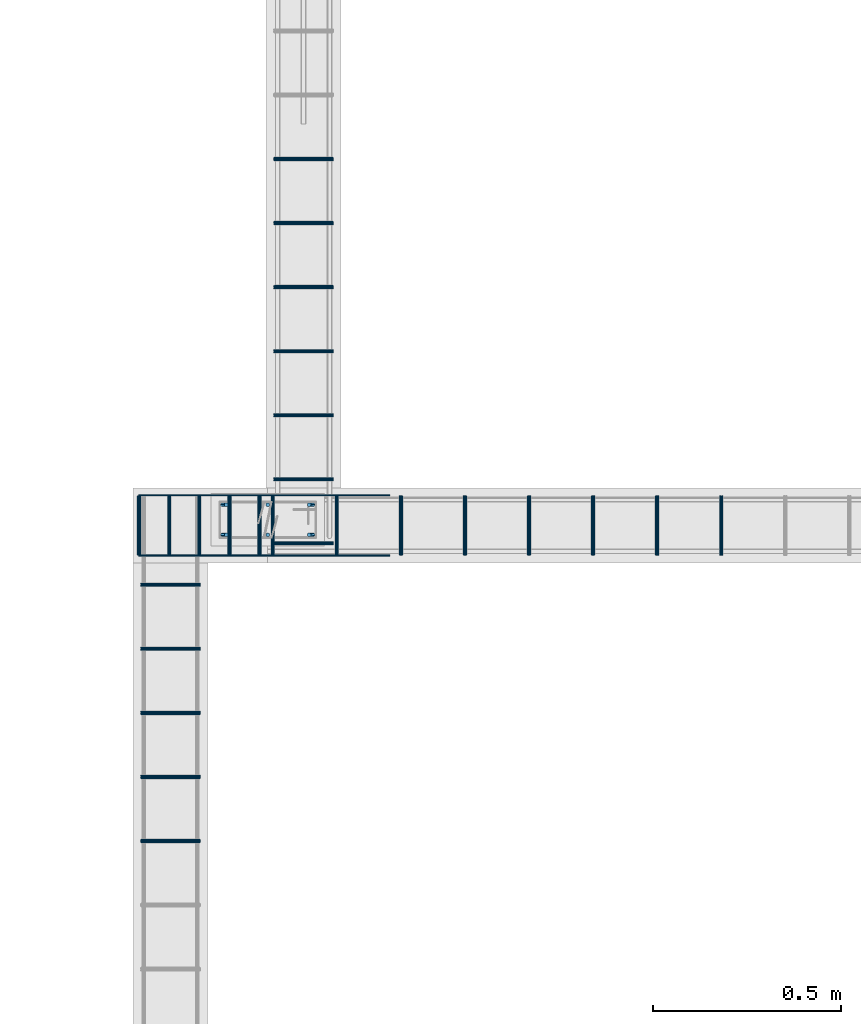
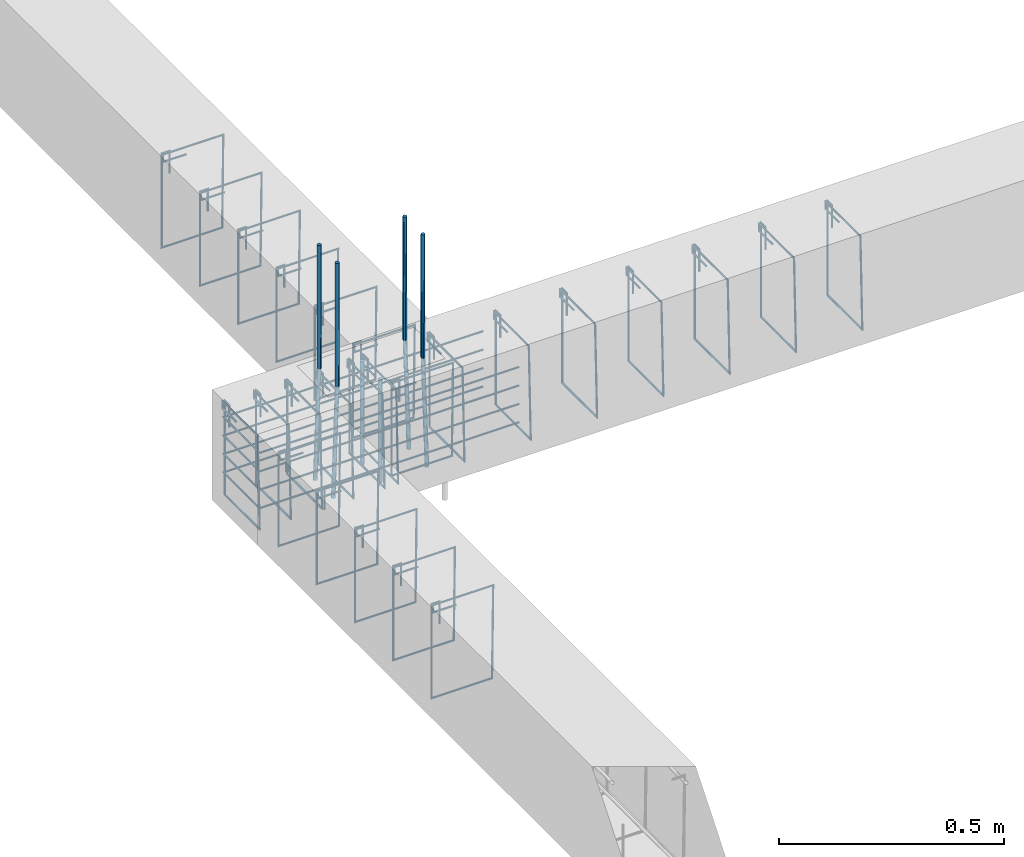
# One storey, part 29 of 150: 35 reinforcing bars.
"""IFC4 building model written with IfcOpenShell, lengths in centimetres."""

import ifcopenshell
import ifcopenshell.guid

model = None  # the IFC model being written
_history = None  # IfcOwnerHistory: only IFC2X3 demands one
_inside = {}  # id of a spatial element -> (the spatial element, [elements in it])
_under = {}  # id of a project, library or spatial element -> (it, [spatial elements below it])
_declared = {}  # id of a project -> (the project, [libraries it declares])
_typed = {}  # id of a type object -> (the type object, [elements of that type])
_made_of = {}  # id of a material, layer set ... -> (it, [elements and type objects made of it])


def new_model(schema):
    """Start an empty IFC model of exactly this schema.

    Asked for "IFC4X3", IfcOpenShell would pick the latest addendum, in which some entities
    have other attributes; the version numbers below select the first issue.
    IFC2X3 requires an IfcOwnerHistory on every rooted entity: one is made here for all.
    """
    global model, _history
    if schema == "IFC4X3":
        model = ifcopenshell.file(schema_version=(4, 3, 0, 0))
    else:
        model = ifcopenshell.file(schema=schema)
    _inside.clear()
    _under.clear()
    _declared.clear()
    _typed.clear()
    _made_of.clear()
    _history = None
    if model.schema == "IFC2X3":
        org = make("IfcOrganization", Name="unknown")
        user = make(
            "IfcPersonAndOrganization",
            ThePerson=make("IfcPerson", FamilyName="unknown"),
            TheOrganization=org,
        )
        app = make(
            "IfcApplication",
            ApplicationDeveloper=org,
            Version="unknown",
            ApplicationFullName="unknown",
            ApplicationIdentifier="unknown",
        )
        _history = make(
            "IfcOwnerHistory",
            OwningUser=user,
            OwningApplication=app,
            ChangeAction="ADDED",
            CreationDate=0,
        )
    return model


def make(cls, **values):
    """One entity of the class cls with the attributes given. An attribute that is None is left unset."""
    return model.create_entity(
        cls, **{name: value for name, value in values.items() if value is not None}
    )


def entity(cls, *values):
    """Any entity or typed value of the class cls, its attributes in the order of the schema. None: left unset."""
    e = model.create_entity(cls)
    for i, value in enumerate(values):
        if value is not None:
            e[i] = value
    return e


def rooted(cls, **values):
    """An entity with a GlobalId (a new one), such as an element, a storey or a relation."""
    return make(cls, GlobalId=ifcopenshell.guid.new(), OwnerHistory=_history, **values)


def si_unit(unit_type, name, prefix=None):
    """IfcSIUnit, for example si_unit("LENGTHUNIT", "METRE", prefix="MILLI")."""
    return make("IfcSIUnit", UnitType=unit_type, Prefix=prefix, Name=name)


def derived_unit(unit_type, elements):
    """IfcDerivedUnit: a product of units, each with its exponent."""
    return make(
        "IfcDerivedUnit",
        Elements=[
            make("IfcDerivedUnitElement", Unit=unit, Exponent=power)
            for unit, power in elements
        ],
        UnitType=unit_type,
    )


def assignment(units):
    """IfcUnitAssignment: the units of a project."""
    return None if units is None else make("IfcUnitAssignment", Units=units)


def point(xyz):
    """IfcCartesianPoint."""
    return None if xyz is None else make("IfcCartesianPoint", Coordinates=xyz)


def direction(xyz):
    """IfcDirection."""
    return None if xyz is None else make("IfcDirection", DirectionRatios=xyz)


def frame(location, z_axis=None, x_axis=None):
    """IfcAxis2Placement3D, a coordinate frame: its origin and axes. An axis left out is left unset."""
    return make(
        "IfcAxis2Placement3D",
        Location=point(location),
        Axis=direction(z_axis),
        RefDirection=direction(x_axis),
    )


def origin_with_axes():
    """The frame at (0, 0, 0) with the z axis (0, 0, 1) and the x axis (1, 0, 0) written out."""
    return frame((0.0, 0.0, 0.0), z_axis=(0.0, 0.0, 1.0), x_axis=(1.0, 0.0, 0.0))


def place(relative_to, where):
    """IfcLocalPlacement: puts the frame where relative to a parent placement (None: the world)."""
    return make(
        "IfcLocalPlacement", PlacementRelTo=relative_to, RelativePlacement=where
    )


def context(
    kind, dimensions, precision=None, world=None, true_north=None, identifier=None
):
    """IfcGeometricRepresentationContext, for example the 3D "Model" context."""
    return make(
        "IfcGeometricRepresentationContext",
        ContextIdentifier=identifier,
        ContextType=kind,
        CoordinateSpaceDimension=dimensions,
        Precision=precision,
        WorldCoordinateSystem=world,
        TrueNorth=true_north,
    )


def project(units=None, contexts=None):
    """IfcProject with its units and contexts."""
    return rooted(
        "IfcProject",
        Name="project",
        RepresentationContexts=contexts,
        UnitsInContext=assignment(units),
    )


def spatial(cls, under=None, at=None, **own):
    """A site, building, storey or space (cls), placed at a placement, below another one or the project."""
    s = rooted(cls, ObjectPlacement=at, **own)
    if under is not None:
        _under.setdefault(under.id(), (under, []))[1].append(s)
    return s


def shape(context_of_items, identifier, shape_type, items):
    """IfcShapeRepresentation: the items that make up one representation, for example the "Body"."""
    return make(
        "IfcShapeRepresentation",
        ContextOfItems=context_of_items,
        RepresentationIdentifier=identifier,
        RepresentationType=shape_type,
        Items=items,
    )


def source(mapping_origin, context_of_items, identifier, shape_type, items):
    """IfcRepresentationMap: a shape defined once, which mapped items show again and again."""
    return make(
        "IfcRepresentationMap",
        MappingOrigin=mapping_origin,
        MappedRepresentation=shape(context_of_items, identifier, shape_type, items),
    )


def transform(
    local_origin,
    x_axis=None,
    y_axis=None,
    z_axis=None,
    scale=None,
    scale2=None,
    scale3=None,
    uniform=True,
):
    """IfcCartesianTransformationOperator3D, or its non-uniform kind. x_axis, y_axis, z_axis: its Axis1, 2, 3."""
    if uniform:
        return make(
            "IfcCartesianTransformationOperator3D",
            Axis1=direction(x_axis),
            Axis2=direction(y_axis),
            LocalOrigin=point(local_origin),
            Scale=scale,
            Axis3=direction(z_axis),
        )
    return make(
        "IfcCartesianTransformationOperator3DnonUniform",
        Axis1=direction(x_axis),
        Axis2=direction(y_axis),
        LocalOrigin=point(local_origin),
        Scale=scale,
        Axis3=direction(z_axis),
        Scale2=scale2,
        Scale3=scale3,
    )


def mapped(mapping_source, mapping_target):
    """IfcMappedItem: shows the shape of a source again, moved by a transform."""
    return make(
        "IfcMappedItem", MappingSource=mapping_source, MappingTarget=mapping_target
    )


def made_of(thing, what):
    """Note that an element or type object is made of a material, layer set ...; save() writes the relation."""
    if what is not None:
        _made_of.setdefault(what.id(), (what, []))[1].append(thing)
    return thing


def element(
    cls,
    number,
    at=None,
    inside=None,
    cuts=None,
    type_object=None,
    material=None,
    context=None,
    identifier="Body",
    shape_type=None,
    held_by="IfcProductDefinitionShape",
    body=None,
    shapes=None,
    **own,
):
    """One element of the class cls, such as IfcWall. Its Tag is "e" and its number.

    at: its placement. inside: the storey or other place that contains it. cuts: it is an
    opening in that element (IfcRelVoidsElement). A single representation is given by context,
    identifier, shape_type and body (its items); several are given by shapes. held_by: the class
    of the entity that holds the representations. save() writes the other relations.
    """
    e = rooted(cls, Tag="e%d" % number, ObjectPlacement=at, **own)
    if body is not None:
        shapes = [shape(context, identifier, shape_type, body)]
    if shapes is not None:
        e.Representation = make(held_by, Representations=shapes)
    if inside is not None:
        _inside.setdefault(inside.id(), (inside, []))[1].append(e)
    if cuts is not None:
        rooted(
            "IfcRelVoidsElement", RelatingBuildingElement=cuts, RelatedOpeningElement=e
        )
    if type_object is not None:
        _typed.setdefault(type_object.id(), (type_object, []))[1].append(e)
    return made_of(e, material)


def aggregate(whole, parts):
    """IfcRelAggregates: a whole, such as a stair, and the parts it consists of."""
    return rooted("IfcRelAggregates", RelatingObject=whole, RelatedObjects=parts)


def save(model, path):
    """Write the relations noted so far, then the file.

    IfcRelAggregates (storeys below a building ...), IfcRelContainedInSpatialStructure (elements
    in a storey), IfcRelDefinesByType, IfcRelAssociatesMaterial and IfcRelDeclares: one each for
    every whole, place, type object, material and project.
    """
    for whole, parts in _under.values():
        aggregate(whole, parts)
    for where, things in _inside.values():
        rooted(
            "IfcRelContainedInSpatialStructure",
            RelatedElements=things,
            RelatingStructure=where,
        )
    for kind, things in _typed.values():
        rooted("IfcRelDefinesByType", RelatedObjects=things, RelatingType=kind)
    for what, things in _made_of.values():
        rooted("IfcRelAssociatesMaterial", RelatedObjects=things, RelatingMaterial=what)
    for by, libraries in _declared.values():
        rooted("IfcRelDeclares", RelatingContext=by, RelatedDefinitions=libraries)
    model.write(path)


model = new_model("IFC4")

# Units and contexts
model_context = context("Model", 3, precision=1e-05, world=origin_with_axes(), identifier="Body")
ifc_project = project(units=[si_unit("LENGTHUNIT", "METRE", prefix="CENTI"), si_unit("VOLUMEUNIT", "CUBIC_METRE"), si_unit("AREAUNIT", "SQUARE_METRE"), si_unit("POWERUNIT", "WATT"), si_unit("LUMINOUSFLUXUNIT", "LUMEN"), si_unit("ELECTRICCURRENTUNIT", "AMPERE"), si_unit("PRESSUREUNIT", "PASCAL", prefix="KILO"), si_unit("MASSUNIT", "GRAM", prefix="KILO"), si_unit("PLANEANGLEUNIT", "RADIAN"), derived_unit("VOLUMETRICFLOWRATEUNIT", [(si_unit("LENGTHUNIT", "METRE"), 3), (si_unit("TIMEUNIT", "SECOND"), -1)])], contexts=[model_context])

# Site, building, storey
site_placement = place(None, frame((-4000.0, 0.0, 0.0), z_axis=(0.0, 0.0, 1.0), x_axis=(1.0, 0.0, 0.0)))
site = spatial("IfcSite", under=ifc_project, at=site_placement, Name="PADRÃO")
building_placement = place(site_placement, frame((0.0, 0.0, -14.0)))
building = spatial("IfcBuilding", under=site, at=building_placement, Name="CRECHE PRÉ-ESCOLA TIPO 2")
placement = place(building_placement, origin_with_axes())
storey_placement = place(placement, frame((0.0, 0.0, 30.0), z_axis=(0.0, 0.0, 1.0), x_axis=(1.0, 0.0, 0.0)))
storey = spatial("IfcBuildingStorey", under=building, at=storey_placement, Name="VIGA BALDRAME", CompositionType="ELEMENT", Elevation=16.0)

# Reinforcing bars
shared_shape_1 = source(origin_with_axes(), model_context, "Body", "AdvancedSweptSolid", [
    entity("IfcSweptDiskSolid", entity("IfcCompositeCurve", [entity("IfcCompositeCurveSegment", "CONTINUOUS", True, entity("IfcPolyline", [entity("IfcCartesianPoint", [2.0, -6.0, 0.0]), entity("IfcCartesianPoint", [2.0, 0.0, 0.0])])), entity("IfcCompositeCurveSegment", "CONTINUOUS", True, entity("IfcPolyline", [entity("IfcCartesianPoint", [2.0, 0.0, 0.0]), entity("IfcCartesianPoint", [0.0, 0.0, 0.0])])), entity("IfcCompositeCurveSegment", "CONTINUOUS", True, entity("IfcPolyline", [entity("IfcCartesianPoint", [0.0, 0.0, 0.0]), entity("IfcCartesianPoint", [0.0, -25.5, 0.0])])), entity("IfcCompositeCurveSegment", "CONTINUOUS", True, entity("IfcPolyline", [entity("IfcCartesianPoint", [0.0, -25.5, 0.0]), entity("IfcCartesianPoint", [15.5, -25.5, 0.0])])), entity("IfcCompositeCurveSegment", "CONTINUOUS", True, entity("IfcPolyline", [entity("IfcCartesianPoint", [15.5, -25.5, 0.0]), entity("IfcCartesianPoint", [15.5, 0.0, 0.5])])), entity("IfcCompositeCurveSegment", "CONTINUOUS", True, entity("IfcPolyline", [entity("IfcCartesianPoint", [15.5, 0.0, 0.5]), entity("IfcCartesianPoint", [0.0, 0.0, 0.5])])), entity("IfcCompositeCurveSegment", "CONTINUOUS", True, entity("IfcPolyline", [entity("IfcCartesianPoint", [0.0, 0.0, 0.5]), entity("IfcCartesianPoint", [0.0, -2.0, 0.5])])), entity("IfcCompositeCurveSegment", "CONTINUOUS", True, entity("IfcPolyline", [entity("IfcCartesianPoint", [0.0, -2.0, 0.5]), entity("IfcCartesianPoint", [6.0, -2.0, 0.5])]))], False), 0.25),
])
for number, where, z_axis, x_axis, name in (
    (1, (235.595, 1307.75, -2.25), (-1.0, 0.0, 0.0), (0.0, -1.0, 0.0), "V136 - Estribo"),
    (2, (267.595, 1307.75, -2.25), (-1.0, 0.0, 0.0), (0.0, -1.0, 0.0), "V136 - Estribo"),
    (3, (259.595, 1307.75, -2.25), (-1.0, 0.0, 0.0), (0.0, -1.0, 0.0), "V136 - Estribo"),
    (4, (251.595, 1307.75, -2.25), (-1.0, 0.0, 0.0), (0.0, -1.0, 0.0), "V136 - Estribo"),
    (5, (243.595, 1307.75, -2.25), (-1.0, 0.0, 0.0), (0.0, -1.0, 0.0), "V136 - Estribo"),
):
    element("IfcReinforcingBar", number, at=place(storey_placement, frame(where, z_axis=z_axis, x_axis=x_axis)), inside=storey, Name=name, BarLength=0.0, CrossSectionArea=1.9634954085e-05, NominalDiameter=0.5, PredefinedType="MAIN", context=model_context, shape_type="MappedRepresentation", body=[
        mapped(shared_shape_1, transform((0.0, 0.0, 0.0), scale=1.0)),
    ])
shared_shape_2 = source(origin_with_axes(), model_context, "Body", "AdvancedSweptSolid", [
    entity("IfcSweptDiskSolid", entity("IfcCompositeCurve", [entity("IfcCompositeCurveSegment", "CONTINUOUS", True, entity("IfcPolyline", [entity("IfcCartesianPoint", [2.0, -6.0, 0.0]), entity("IfcCartesianPoint", [2.0, 0.0, 0.0])])), entity("IfcCompositeCurveSegment", "CONTINUOUS", True, entity("IfcPolyline", [entity("IfcCartesianPoint", [2.0, 0.0, 0.0]), entity("IfcCartesianPoint", [0.0, 0.0, 0.0])])), entity("IfcCompositeCurveSegment", "CONTINUOUS", True, entity("IfcPolyline", [entity("IfcCartesianPoint", [0.0, 0.0, 0.0]), entity("IfcCartesianPoint", [0.0, -25.5, 0.0])])), entity("IfcCompositeCurveSegment", "CONTINUOUS", True, entity("IfcPolyline", [entity("IfcCartesianPoint", [0.0, -25.5, 0.0]), entity("IfcCartesianPoint", [15.5, -25.5, 0.0])])), entity("IfcCompositeCurveSegment", "CONTINUOUS", True, entity("IfcPolyline", [entity("IfcCartesianPoint", [15.5, -25.5, 0.0]), entity("IfcCartesianPoint", [15.5, 0.0, 0.5])])), entity("IfcCompositeCurveSegment", "CONTINUOUS", True, entity("IfcPolyline", [entity("IfcCartesianPoint", [15.5, 0.0, 0.5]), entity("IfcCartesianPoint", [0.0, 0.0, 0.5])])), entity("IfcCompositeCurveSegment", "CONTINUOUS", True, entity("IfcPolyline", [entity("IfcCartesianPoint", [0.0, 0.0, 0.5]), entity("IfcCartesianPoint", [0.0, -2.0, 0.5])])), entity("IfcCompositeCurveSegment", "CONTINUOUS", True, entity("IfcPolyline", [entity("IfcCartesianPoint", [0.0, -2.0, 0.5]), entity("IfcCartesianPoint", [6.0, -2.0, 0.5])]))], False), 0.25),
])
for number, where, z_axis, x_axis, name in (
    (6, (390.095, 1307.75, -2.25), (-1.0, 0.0, 0.0), (0.0, -1.0, 0.0), "V136 - Estribo"),
    (7, (373.095, 1307.75, -2.25), (-1.0, 0.0, 0.0), (0.0, -1.0, 0.0), "V136 - Estribo"),
    (8, (356.095, 1307.75, -2.25), (-1.0, 0.0, 0.0), (0.0, -1.0, 0.0), "V136 - Estribo"),
    (9, (339.095, 1307.75, -2.25), (-1.0, 0.0, 0.0), (0.0, -1.0, 0.0), "V136 - Estribo"),
    (10, (322.095, 1307.75, -2.25), (-1.0, 0.0, 0.0), (0.0, -1.0, 0.0), "V136 - Estribo"),
    (11, (305.095, 1307.75, -2.25), (-1.0, 0.0, 0.0), (0.0, -1.0, 0.0), "V136 - Estribo"),
    (12, (288.095, 1307.75, -2.25), (-1.0, 0.0, 0.0), (0.0, -1.0, 0.0), "V136 - Estribo"),
    (13, (271.095, 1307.75, -2.25), (-1.0, 0.0, 0.0), (0.0, -1.0, 0.0), "V136 - Estribo"),
):
    element("IfcReinforcingBar", number, at=place(storey_placement, frame(where, z_axis=z_axis, x_axis=x_axis)), inside=storey, Name=name, BarLength=0.0, CrossSectionArea=1.9634954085e-05, NominalDiameter=0.5, PredefinedType="MAIN", context=model_context, shape_type="MappedRepresentation", body=[
        mapped(shared_shape_2, transform((0.0, 0.0, 0.0), scale=1.0)),
    ])
shared_shape_3 = source(origin_with_axes(), model_context, "Body", "AdvancedSweptSolid", [
    entity("IfcSweptDiskSolid", entity("IfcCompositeCurve", [entity("IfcCompositeCurveSegment", "CONTINUOUS", True, entity("IfcPolyline", [entity("IfcCartesianPoint", [0.0, 0.0, 0.0]), entity("IfcCartesianPoint", [-66.5113828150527, 0.0, 0.0])])), entity("IfcCompositeCurveSegment", "CONTINUOUS", True, entity("IfcPolyline", [entity("IfcCartesianPoint", [-66.5113828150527, 0.0, 0.0]), entity("IfcCartesianPoint", [-66.5113828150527, -16.0, 0.0])])), entity("IfcCompositeCurveSegment", "CONTINUOUS", True, entity("IfcPolyline", [entity("IfcCartesianPoint", [-66.5113828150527, -16.0, 0.0]), entity("IfcCartesianPoint", [0.0, -16.0, 0.0])]))], False), 0.25),
])
for number, where, z_axis, x_axis, name in (
    (14, (301.951382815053, 1308.0, -11.875), (0.0, 0.0, 1.0), (1.0, 0.0, 0.0), "V136 - Grampo"),
    (15, (301.951382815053, 1308.0, -16.875), (0.0, 0.0, 1.0), (1.0, 0.0, 0.0), "V136 - Grampo"),
    (16, (301.951382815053, 1308.0, -21.875), (0.0, 0.0, 1.0), (1.0, 0.0, 0.0), "V136 - Grampo"),
    (17, (301.951382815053, 1308.0, -6.875), (0.0, 0.0, 1.0), (1.0, 0.0, 0.0), "V136 - Grampo"),
):
    element("IfcReinforcingBar", number, at=place(storey_placement, frame(where, z_axis=z_axis, x_axis=x_axis)), inside=storey, Name=name, BarLength=0.0, CrossSectionArea=1.9634954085e-05, NominalDiameter=0.5, PredefinedType="MAIN", context=model_context, shape_type="MappedRepresentation", body=[
        mapped(shared_shape_3, transform((0.0, 0.0, 0.0), scale=1.0)),
    ])
shared_shape_4 = source(origin_with_axes(), model_context, "Body", "AdvancedSweptSolid", [
    entity("IfcSweptDiskSolid", entity("IfcCompositeCurve", [entity("IfcCompositeCurveSegment", "CONTINUOUS", True, entity("IfcPolyline", [entity("IfcCartesianPoint", [2.0, -6.0, 0.0]), entity("IfcCartesianPoint", [2.0, 0.0, 0.0])])), entity("IfcCompositeCurveSegment", "CONTINUOUS", True, entity("IfcPolyline", [entity("IfcCartesianPoint", [2.0, 0.0, 0.0]), entity("IfcCartesianPoint", [0.0, 0.0, 0.0])])), entity("IfcCompositeCurveSegment", "CONTINUOUS", True, entity("IfcPolyline", [entity("IfcCartesianPoint", [0.0, 0.0, 0.0]), entity("IfcCartesianPoint", [0.0, -25.5, 0.0])])), entity("IfcCompositeCurveSegment", "CONTINUOUS", True, entity("IfcPolyline", [entity("IfcCartesianPoint", [0.0, -25.5, 0.0]), entity("IfcCartesianPoint", [15.5, -25.5, 0.0])])), entity("IfcCompositeCurveSegment", "CONTINUOUS", True, entity("IfcPolyline", [entity("IfcCartesianPoint", [15.5, -25.5, 0.0]), entity("IfcCartesianPoint", [15.5, 0.0, 0.5])])), entity("IfcCompositeCurveSegment", "CONTINUOUS", True, entity("IfcPolyline", [entity("IfcCartesianPoint", [15.5, 0.0, 0.5]), entity("IfcCartesianPoint", [0.0, 0.0, 0.5])])), entity("IfcCompositeCurveSegment", "CONTINUOUS", True, entity("IfcPolyline", [entity("IfcCartesianPoint", [0.0, 0.0, 0.5]), entity("IfcCartesianPoint", [0.0, -2.0, 0.5])])), entity("IfcCompositeCurveSegment", "CONTINUOUS", True, entity("IfcPolyline", [entity("IfcCartesianPoint", [0.0, -2.0, 0.5]), entity("IfcCartesianPoint", [6.0, -2.0, 0.5])]))], False), 0.25),
])
for number, where, z_axis, x_axis, name in (
    (18, (235.94, 1216.5, -2.25), (0.0, -1.0, 0.0), (1.0, 0.0, 0.0), "V161 - Estribo"),
    (19, (235.94, 1233.5, -2.25), (0.0, -1.0, 0.0), (1.0, 0.0, 0.0), "V161 - Estribo"),
    (20, (235.94, 1250.5, -2.25), (0.0, -1.0, 0.0), (1.0, 0.0, 0.0), "V161 - Estribo"),
    (21, (235.94, 1267.5, -2.25), (0.0, -1.0, 0.0), (1.0, 0.0, 0.0), "V161 - Estribo"),
    (22, (235.94, 1284.5, -2.25), (0.0, -1.0, 0.0), (1.0, 0.0, 0.0), "V161 - Estribo"),
):
    element("IfcReinforcingBar", number, at=place(storey_placement, frame(where, z_axis=z_axis, x_axis=x_axis)), inside=storey, Name=name, BarLength=0.0, CrossSectionArea=1.9634954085e-05, NominalDiameter=0.5, PredefinedType="MAIN", context=model_context, shape_type="MappedRepresentation", body=[
        mapped(shared_shape_4, transform((0.0, 0.0, 0.0), scale=1.0)),
    ])
shared_shape_5 = source(origin_with_axes(), model_context, "Body", "AdvancedSweptSolid", [
    entity("IfcSweptDiskSolid", entity("IfcCompositeCurve", [entity("IfcCompositeCurveSegment", "CONTINUOUS", True, entity("IfcPolyline", [entity("IfcCartesianPoint", [2.0, -6.0, 0.0]), entity("IfcCartesianPoint", [2.0, 0.0, 0.0])])), entity("IfcCompositeCurveSegment", "CONTINUOUS", True, entity("IfcPolyline", [entity("IfcCartesianPoint", [2.0, 0.0, 0.0]), entity("IfcCartesianPoint", [0.0, 0.0, 0.0])])), entity("IfcCompositeCurveSegment", "CONTINUOUS", True, entity("IfcPolyline", [entity("IfcCartesianPoint", [0.0, 0.0, 0.0]), entity("IfcCartesianPoint", [0.0, -25.5, 0.0])])), entity("IfcCompositeCurveSegment", "CONTINUOUS", True, entity("IfcPolyline", [entity("IfcCartesianPoint", [0.0, -25.5, 0.0]), entity("IfcCartesianPoint", [15.5, -25.5, 0.0])])), entity("IfcCompositeCurveSegment", "CONTINUOUS", True, entity("IfcPolyline", [entity("IfcCartesianPoint", [15.5, -25.5, 0.0]), entity("IfcCartesianPoint", [15.5, 0.0, 0.5])])), entity("IfcCompositeCurveSegment", "CONTINUOUS", True, entity("IfcPolyline", [entity("IfcCartesianPoint", [15.5, 0.0, 0.5]), entity("IfcCartesianPoint", [0.0, 0.0, 0.5])])), entity("IfcCompositeCurveSegment", "CONTINUOUS", True, entity("IfcPolyline", [entity("IfcCartesianPoint", [0.0, 0.0, 0.5]), entity("IfcCartesianPoint", [0.0, -2.0, 0.5])])), entity("IfcCompositeCurveSegment", "CONTINUOUS", True, entity("IfcPolyline", [entity("IfcCartesianPoint", [0.0, -2.0, 0.5]), entity("IfcCartesianPoint", [6.0, -2.0, 0.5])]))], False), 0.25),
])
for number, where, z_axis, x_axis, name in (
    (23, (271.25, 1312.5, -2.25), (0.0, -1.0, 0.0), (1.0, 0.0, 0.0), "V162 - Estribo"),
    (24, (271.25, 1397.5, -2.25), (0.0, -1.0, 0.0), (1.0, 0.0, 0.0), "V162 - Estribo"),
    (25, (271.25, 1380.5, -2.25), (0.0, -1.0, 0.0), (1.0, 0.0, 0.0), "V162 - Estribo"),
    (26, (271.25, 1363.5, -2.25), (0.0, -1.0, 0.0), (1.0, 0.0, 0.0), "V162 - Estribo"),
    (27, (271.25, 1346.5, -2.25), (0.0, -1.0, 0.0), (1.0, 0.0, 0.0), "V162 - Estribo"),
    (28, (271.25, 1329.5, -2.25), (0.0, -1.0, 0.0), (1.0, 0.0, 0.0), "V162 - Estribo"),
    (29, (271.25, 1295.5, -2.25), (0.0, -1.0, 0.0), (1.0, 0.0, 0.0), "V162 - Estribo"),
):
    element("IfcReinforcingBar", number, at=place(storey_placement, frame(where, z_axis=z_axis, x_axis=x_axis)), inside=storey, Name=name, BarLength=0.0, CrossSectionArea=1.9634954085e-05, NominalDiameter=0.5, PredefinedType="MAIN", context=model_context, shape_type="MappedRepresentation", body=[
        mapped(shared_shape_5, transform((0.0, 0.0, 0.0), scale=1.0)),
    ])
reinforcing_bar_1_placement = place(storey_placement, frame((269.5, 1297.5, -2.0), z_axis=(0.0, 0.0, 1.0), x_axis=(1.0, 0.0, 0.0)))
element("IfcReinforcingBar", 30, at=reinforcing_bar_1_placement, inside=storey, Name="P106 - Longitudinal", BarLength=0.0, CrossSectionArea=7.853981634e-05, NominalDiameter=1.0, PredefinedType="MAIN", context=model_context, shape_type="AdvancedSweptSolid", body=[
    entity("IfcSweptDiskSolid", entity("IfcCompositeCurve", [entity("IfcCompositeCurveSegment", "CONTINUOUS", True, entity("IfcPolyline", [entity("IfcCartesianPoint", [0.0, 0.0, -28.0]), entity("IfcCartesianPoint", [0.0, 0.0, 0.0])]))], False), 0.5),
])
for number, where, z_axis, x_axis, name in (
    (31, (258.000138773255, 1305.5, 33.3573001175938), (0.0, 0.0, 1.0), (1.0, 0.0, 0.0), "P106 - Longitudinal"),
    (32, (258.000138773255, 1297.5, 33.3573001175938), (0.0, 0.0, 1.0), (1.0, 0.0, 0.0), "P106 - Longitudinal"),
):
    element("IfcReinforcingBar", number, at=place(storey_placement, frame(where, z_axis=z_axis, x_axis=x_axis)), inside=storey, Name=name, BarLength=0.0, CrossSectionArea=7.853981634e-05, NominalDiameter=1.0, PredefinedType="MAIN", context=model_context, shape_type="AdvancedSweptSolid", body=[
        entity("IfcSweptDiskSolid", entity("IfcCompositeCurve", [entity("IfcCompositeCurveSegment", "CONTINUOUS", True, entity("IfcPolyline", [entity("IfcCartesianPoint", [-0.50013877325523, 0.0, -63.3573001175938]), entity("IfcCartesianPoint", [0.49986122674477, 0.0, -33.3573001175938])])), entity("IfcCompositeCurveSegment", "CONTINUOUS", True, entity("IfcPolyline", [entity("IfcCartesianPoint", [0.49986122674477, 0.0, -33.3573001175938]), entity("IfcCartesianPoint", [0.49986122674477, 0.0, 0.0])]))], False), 0.5),
    ])
reinforcing_bar_2_placement = place(storey_placement, frame((280.999861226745, 1297.5, 33.3573001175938), z_axis=(0.0, 0.0, 1.0), x_axis=(1.0, 0.0, 0.0)))
element("IfcReinforcingBar", 33, at=reinforcing_bar_2_placement, inside=storey, Name="P106 - Longitudinal", BarLength=0.0, CrossSectionArea=7.853981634e-05, NominalDiameter=1.0, PredefinedType="MAIN", context=model_context, shape_type="AdvancedSweptSolid", body=[
    entity("IfcSweptDiskSolid", entity("IfcCompositeCurve", [entity("IfcCompositeCurveSegment", "CONTINUOUS", True, entity("IfcPolyline", [entity("IfcCartesianPoint", [0.50013877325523, 0.0, -63.3573001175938]), entity("IfcCartesianPoint", [-0.49986122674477, 0.0, -33.3573001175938])])), entity("IfcCompositeCurveSegment", "CONTINUOUS", True, entity("IfcPolyline", [entity("IfcCartesianPoint", [-0.49986122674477, 0.0, -33.3573001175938]), entity("IfcCartesianPoint", [-0.49986122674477, 0.0, 0.0])]))], False), 0.5),
])
reinforcing_bar_3_placement = place(storey_placement, frame((269.5, 1305.5, -2.0), z_axis=(0.0, 0.0, 1.0), x_axis=(1.0, 0.0, 0.0)))
element("IfcReinforcingBar", 34, at=reinforcing_bar_3_placement, inside=storey, Name="P106 - Longitudinal", BarLength=0.0, CrossSectionArea=7.853981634e-05, NominalDiameter=1.0, PredefinedType="MAIN", context=model_context, shape_type="AdvancedSweptSolid", body=[
    entity("IfcSweptDiskSolid", entity("IfcCompositeCurve", [entity("IfcCompositeCurveSegment", "CONTINUOUS", True, entity("IfcPolyline", [entity("IfcCartesianPoint", [0.0, 0.0, -28.0]), entity("IfcCartesianPoint", [0.0, 0.0, 0.0])]))], False), 0.5),
])
reinforcing_bar_4_placement = place(storey_placement, frame((280.999861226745, 1305.5, 33.3573001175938), z_axis=(0.0, 0.0, 1.0), x_axis=(1.0, 0.0, 0.0)))
element("IfcReinforcingBar", 35, at=reinforcing_bar_4_placement, inside=storey, Name="P106 - Longitudinal", BarLength=0.0, CrossSectionArea=7.853981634e-05, NominalDiameter=1.0, PredefinedType="MAIN", context=model_context, shape_type="AdvancedSweptSolid", body=[
    entity("IfcSweptDiskSolid", entity("IfcCompositeCurve", [entity("IfcCompositeCurveSegment", "CONTINUOUS", True, entity("IfcPolyline", [entity("IfcCartesianPoint", [0.50013877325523, 0.0, -63.3573001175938]), entity("IfcCartesianPoint", [-0.49986122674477, 0.0, -33.3573001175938])])), entity("IfcCompositeCurveSegment", "CONTINUOUS", True, entity("IfcPolyline", [entity("IfcCartesianPoint", [-0.49986122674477, 0.0, -33.3573001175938]), entity("IfcCartesianPoint", [-0.49986122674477, 0.0, 0.0])]))], False), 0.5),
])

save(model, "model.ifc")
